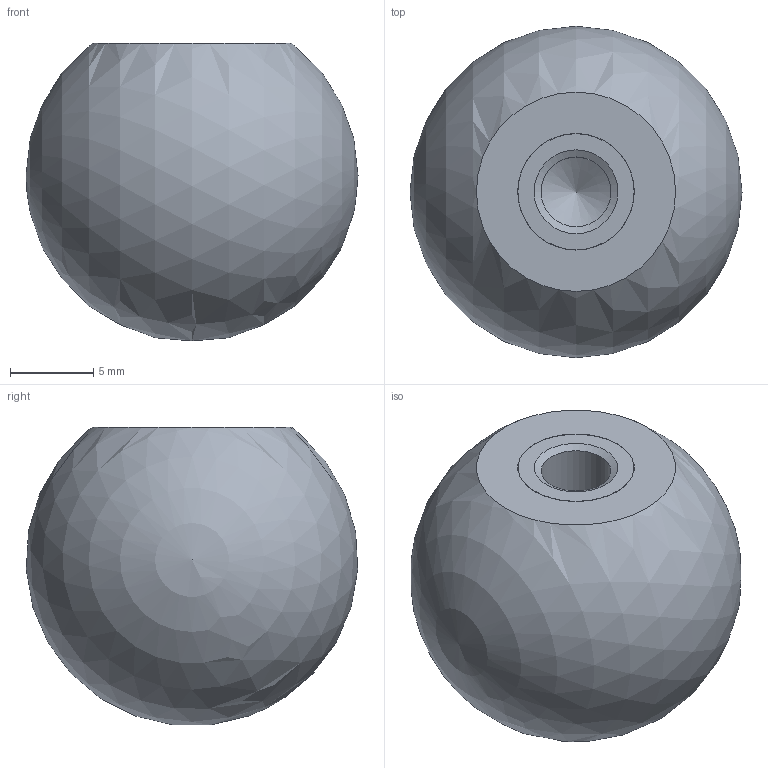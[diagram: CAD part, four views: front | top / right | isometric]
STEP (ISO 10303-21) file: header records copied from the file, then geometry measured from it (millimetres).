
FILE_DESCRIPTION (( 'STEP AP214' ), '1' );
FILE_NAME ('319-KT-20-M5-E.step', '2019-04-24T07:38:24', ( 'user' ), ( '' ), 'SwSTEP 2.0', 'SolidWorks 2019', '' );
FILE_SCHEMA (( 'AUTOMOTIVE_DESIGN' ));
Length unit declared in the file: millimetre
Products named in the file (1): 319-KT-20-M5-E
Bounding box: 20 x 19.97 x 17.93 mm (x, y, z)
Volume: 3926.4 mm3; surface area: 1376.5 mm2
Topology: 1 solids, 1 shells, 9 faces, 17 edges, 11 vertices
Faces by surface type: plane 3, cylinder 3, cone 2, sphere 1
Full cylindrical faces by diameter (mm): 4.2 x1, 7 x1, 7.02 x1
Entity records: 252 total; most frequent: DIRECTION 36, CARTESIAN_POINT 26, AXIS2_PLACEMENT_3D 18, ORIENTED_EDGE 16, EDGE_LOOP 16, FACE_OUTER_BOUND 12, ADVANCED_FACE 9, CIRCLE 8
